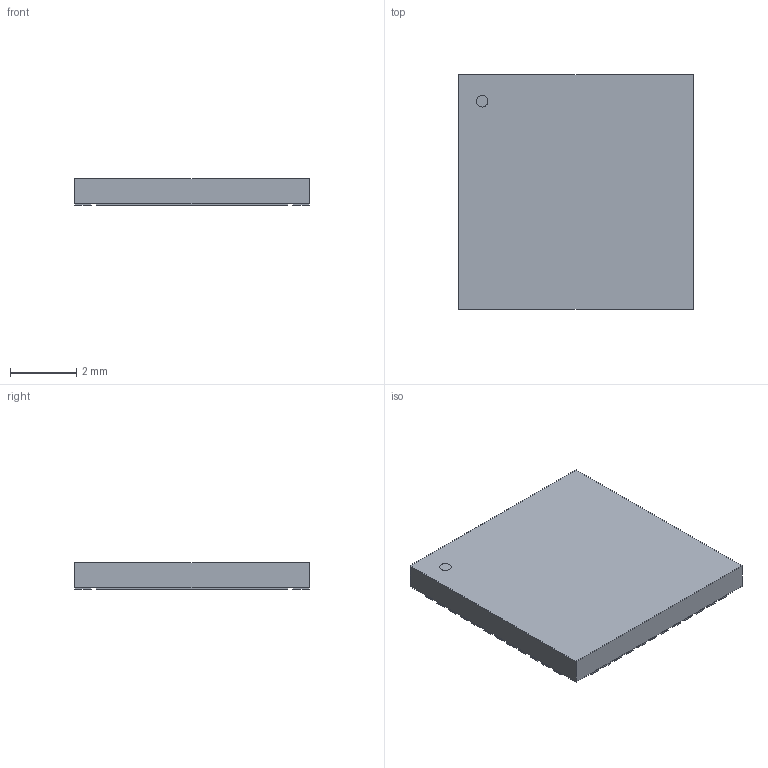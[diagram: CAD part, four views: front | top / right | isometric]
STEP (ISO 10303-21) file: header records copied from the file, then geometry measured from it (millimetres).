
FILE_DESCRIPTION(('STEP AP214'),'1');
FILE_NAME('NBG48P1_REN','2024-12-21T01:29:19',(''),(''),'','','');
FILE_SCHEMA(('AUTOMOTIVE_DESIGN'));
Length unit declared in the file: millimetre
Products named in the file (1): product
Bounding box: 7.11 x 7.11 x 0.81 mm (x, y, z)
Volume: 40.6 mm3; surface area: 208.9 mm2
Topology: 51 solids, 51 shells, 303 faces, 603 edges, 402 vertices
Faces by surface type: plane 302, cylinder 1
Full cylindrical faces by diameter (mm): 0.356 x1
Entity records: 7429 total; most frequent: DIRECTION 1214, ORIENTED_EDGE 1204, CARTESIAN_POINT 709, EDGE_CURVE 602, LINE 600, VECTOR 600, VERTEX_POINT 402, AXIS2_PLACEMENT_3D 307
